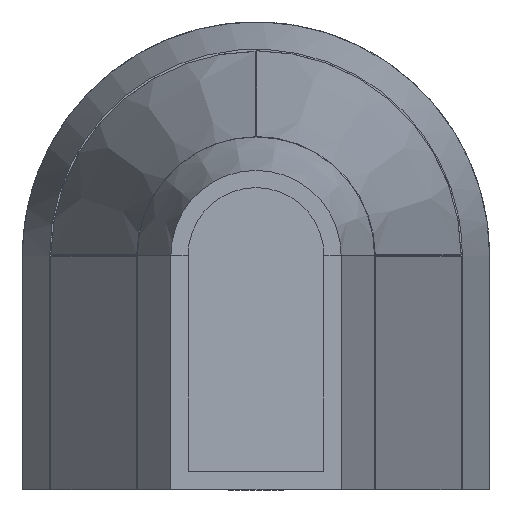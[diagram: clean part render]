
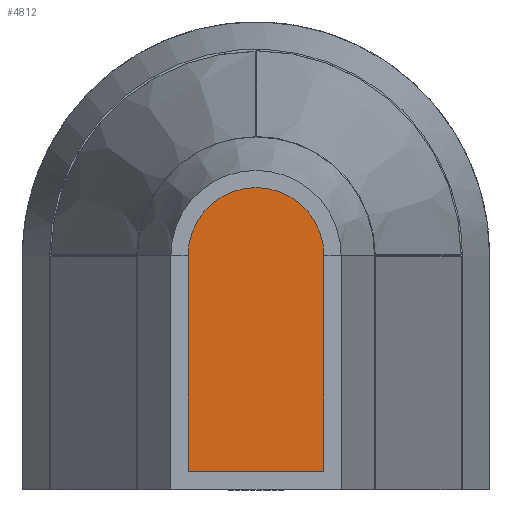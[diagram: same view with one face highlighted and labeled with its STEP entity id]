
A CAD part, front view. The second image highlights one B-rep face of the part: STEP entity #4812.
In plain terms, the highlighted planar face has unit normal (0, -1, 0).
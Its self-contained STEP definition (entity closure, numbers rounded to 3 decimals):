
#502 = DIRECTION ( 'NONE',  ( 0., 0., 1. ) ) ;
#735 = LINE ( 'NONE', #9784, #21838 ) ;
#747 = DIRECTION ( 'NONE',  ( 1., 0., 0. ) ) ;
#2274 = ORIENTED_EDGE ( 'NONE', *, *, #2333, .T. ) ;
#2333 = EDGE_CURVE ( 'NONE', #19080, #21996, #6110, .T. ) ;
#2847 = DIRECTION ( 'NONE',  ( 0., -1., 0. ) ) ;
#3341 = ORIENTED_EDGE ( 'NONE', *, *, #7126, .F. ) ;
#3994 = VERTEX_POINT ( 'NONE', #9744 ) ;
#4406 = AXIS2_PLACEMENT_3D ( 'NONE', #11448, #6327, #17407 ) ;
#4567 = AXIS2_PLACEMENT_3D ( 'NONE', #17535, #2847, #8270 ) ;
#4746 = CARTESIAN_POINT ( 'NONE',  ( 110.17, -492., 0. ) ) ;
#4812 = ADVANCED_FACE ( 'NONE', ( #8371 ), #8497, .F. ) ;
#5339 = DIRECTION ( 'NONE',  ( 0., 0., 1. ) ) ;
#6110 = CIRCLE ( 'NONE', #4567, 110.17 ) ;
#6183 = VECTOR ( 'NONE', #747, 1000. ) ;
#6327 = DIRECTION ( 'NONE',  ( 0., 1., 0. ) ) ;
#7126 = EDGE_CURVE ( 'NONE', #3994, #21996, #735, .T. ) ;
#8270 = DIRECTION ( 'NONE',  ( 0., 0., -1. ) ) ;
#8371 = FACE_OUTER_BOUND ( 'NONE', #20461, .T. ) ;
#8497 = PLANE ( 'NONE',  #4406 ) ;
#9744 = CARTESIAN_POINT ( 'NONE',  ( -110.17, -492., 0. ) ) ;
#9784 = CARTESIAN_POINT ( 'NONE',  ( -110.17, -492., 0. ) ) ;
#9914 = CARTESIAN_POINT ( 'NONE',  ( 0., -492., 0. ) ) ;
#11448 = CARTESIAN_POINT ( 'NONE',  ( -110.17, -492., 0. ) ) ;
#11828 = CARTESIAN_POINT ( 'NONE',  ( -110.17, -492., 250. ) ) ;
#13605 = EDGE_CURVE ( 'NONE', #19189, #19080, #16417, .T. ) ;
#13907 = EDGE_CURVE ( 'NONE', #3994, #19189, #18581, .T. ) ;
#16417 = LINE ( 'NONE', #20269, #18499 ) ;
#17407 = DIRECTION ( 'NONE',  ( 0., 0., 1. ) ) ;
#17535 = CARTESIAN_POINT ( 'NONE',  ( 0., -492., 250. ) ) ;
#17836 = ORIENTED_EDGE ( 'NONE', *, *, #13605, .T. ) ;
#18377 = CARTESIAN_POINT ( 'NONE',  ( 110.17, -492., 250. ) ) ;
#18499 = VECTOR ( 'NONE', #5339, 1000. ) ;
#18581 = LINE ( 'NONE', #9914, #6183 ) ;
#19080 = VERTEX_POINT ( 'NONE', #18377 ) ;
#19189 = VERTEX_POINT ( 'NONE', #4746 ) ;
#20269 = CARTESIAN_POINT ( 'NONE',  ( 110.17, -492., 0. ) ) ;
#20461 = EDGE_LOOP ( 'NONE', ( #21626, #17836, #2274, #3341 ) ) ;
#21626 = ORIENTED_EDGE ( 'NONE', *, *, #13907, .T. ) ;
#21838 = VECTOR ( 'NONE', #502, 1000. ) ;
#21996 = VERTEX_POINT ( 'NONE', #11828 ) ;
